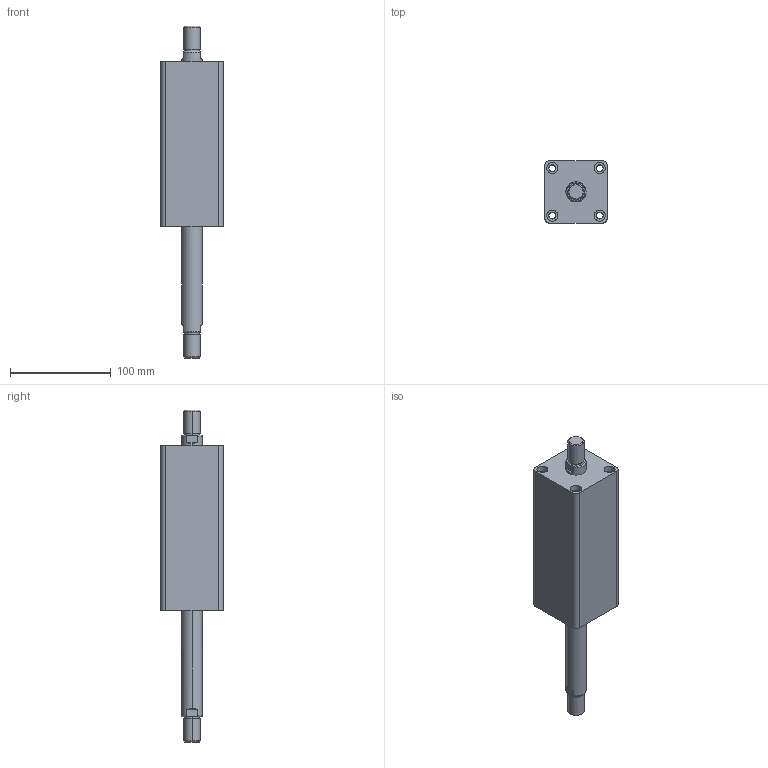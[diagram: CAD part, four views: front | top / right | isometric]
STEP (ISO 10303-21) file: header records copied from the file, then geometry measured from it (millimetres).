
FILE_DESCRIPTION (( 'STEP AP203' ), '1' );
FILE_NAME ('HTB-SW32-95W.STEP', '2019-10-07T09:00:30', ( '微软用户' ), ( '微软中国' ), 'SwSTEP 2.0', 'SolidWorks 2012', '' );
FILE_SCHEMA (( 'CONFIG_CONTROL_DESIGN' ));
Length unit declared in the file: millimetre
Products named in the file (3): HTB-SW32-95W; HTB-SW32-95W活塞杆; HTB-SW32-95掛极
Assembly tree (2 placements, depth 2):
  HTB-SW32-95W
    HTB-SW32-95掛极
    HTB-SW32-95W活塞杆
Bounding box: 62 x 62 x 329 mm (x, y, z)
Volume: 596861.6 mm3; surface area: 99235.4 mm2
Topology: 2 solids, 2 shells, 108 faces, 240 edges, 156 vertices
Faces by surface type: cylinder 52, plane 36, torus 12, cone 8
Entity records: 3449 total; most frequent: CARTESIAN_POINT 629, DIRECTION 586, ORIENTED_EDGE 480, AXIS2_PLACEMENT_3D 249, EDGE_CURVE 240, VERTEX_POINT 156, EDGE_LOOP 138, CIRCLE 136
